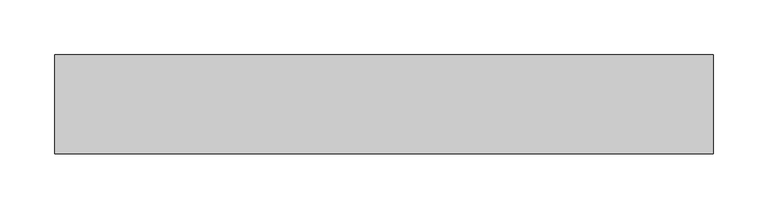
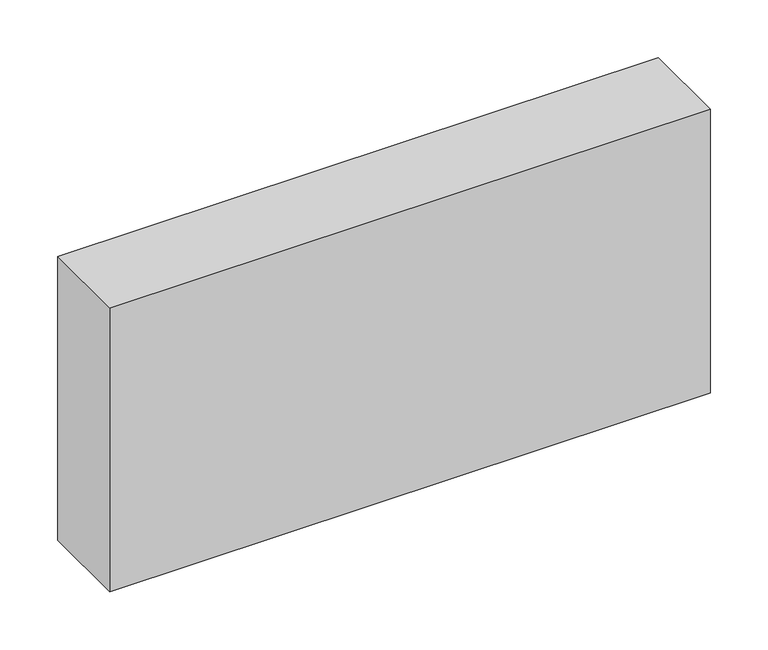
"""IFC4 building model written with IfcOpenShell, lengths in millimetres: proxy geometry, Módulo de Vedação de Concreto Celular - Celucon : MVCC 09x30x60cm (L x A x C)."""

from ifc_helpers import new_model, si_unit, origin, origin_with_axes, place, context, project, spatial, polyline, outline, extrude, source, transform, mapped, element, save


def generic_models_086c547d(model_context):
    return source(origin(), model_context, "Body", "SweptSolid", [
        extrude(outline(polyline([(300.0, 45.0), (300.0, -45.0), (-300.0, -45.0), (-300.0, 45.0), (300.0, 45.0)])), origin_with_axes(), (0.0, 0.0, 1.0), 300.0),
    ])


if __name__ == "__main__":
    model = new_model("IFC4")
    model_context = context("Model", 3, world=origin())
    ifc_project = project(units=[si_unit("LENGTHUNIT", "METRE", prefix="MILLI")], contexts=[model_context])
    site = spatial("IfcSite", under=ifc_project)
    building = spatial("IfcBuilding", under=site)
    placement = place(None, origin())
    generic_models_shape = generic_models_086c547d(model_context)
    element("IfcBuildingElementProxy", 1, Name="Módulo de Vedação de Concreto Celular - Celucon : MVCC 09x30x60cm (L x A x C)", ObjectType="Módulo de Vedação de Concreto Celular - Celucon : MVCC 09x30x60cm (L x A x C)", at=placement, inside=building, context=model_context, shape_type="MappedRepresentation", body=[
        mapped(generic_models_shape, transform((0.0, 0.0, 0.0), x_axis=(1.0, 0.0, 0.0), y_axis=(0.0, 1.0, 0.0), z_axis=(0.0, 0.0, 1.0))),
    ])
    save(model, "model.ifc")
